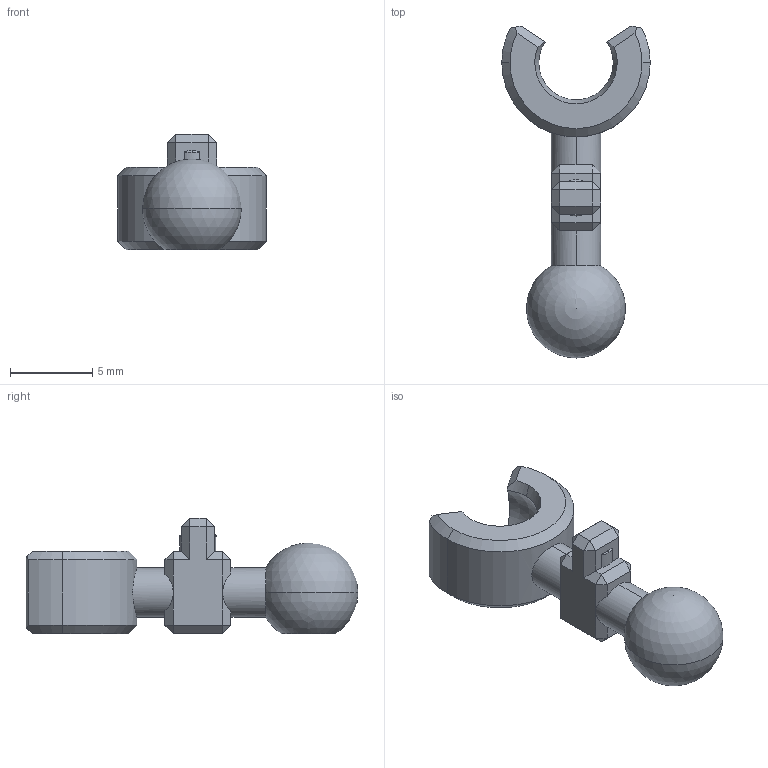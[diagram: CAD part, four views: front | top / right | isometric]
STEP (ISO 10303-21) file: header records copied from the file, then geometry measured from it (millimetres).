
FILE_DESCRIPTION (( 'STEP AP214' ), '1' );
FILE_NAME ('Neck Segment.STEP', '2023-12-23T22:21:53', ( '' ), ( '' ), 'SwSTEP 2.0', 'SolidWorks 2023', '' );
FILE_SCHEMA (( 'AUTOMOTIVE_DESIGN' ));
Length unit declared in the file: millimetre
Products named in the file (1): Neck Segment
Bounding box: 9 x 20.12 x 7 mm (x, y, z)
Volume: 340.7 mm3; surface area: 436.8 mm2
Topology: 1 solids, 1 shells, 90 faces, 220 edges, 131 vertices
Faces by surface type: plane 61, cone 12, cylinder 10, sphere 4, torus 3
Entity records: 2646 total; most frequent: CARTESIAN_POINT 578, ORIENTED_EDGE 428, DIRECTION 425, EDGE_CURVE 214, AXIS2_PLACEMENT_3D 145, LINE 135, VECTOR 135, VERTEX_POINT 128
